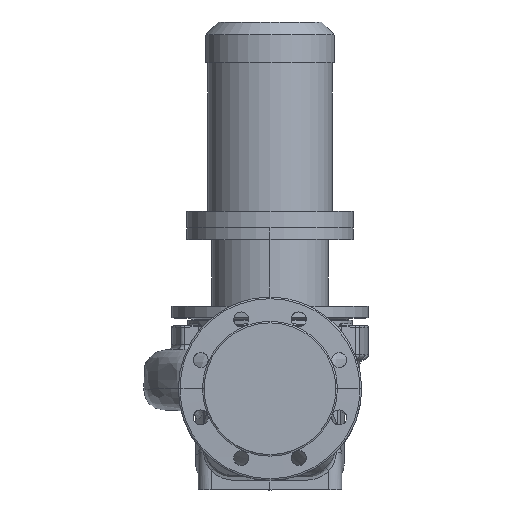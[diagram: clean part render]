
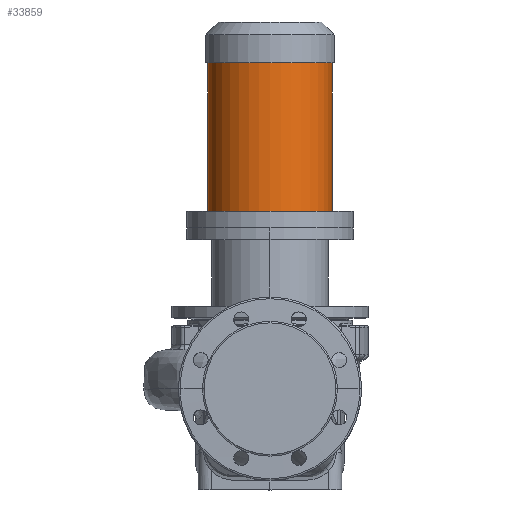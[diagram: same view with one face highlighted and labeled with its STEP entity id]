
A CAD part, top view. The second image highlights one B-rep face of the part: STEP entity #33859.
In plain terms, the highlighted cylindrical face has radius 74.5 mm (diameter 149 mm), a partial arc.
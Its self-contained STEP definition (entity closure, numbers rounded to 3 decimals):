
#2014 = FACE_OUTER_BOUND ( 'NONE', #4001, .T. ) ;
#4001 = EDGE_LOOP ( 'NONE', ( #45559, #39321, #36746, #52299 ) ) ;
#4704 = EDGE_CURVE ( 'NONE', #48616, #51716, #41108, .T. ) ;
#5822 = EDGE_CURVE ( 'NONE', #48616, #24642, #12489, .T. ) ;
#9980 = DIRECTION ( 'NONE',  ( -1., 0., 0. ) ) ;
#10709 = VECTOR ( 'NONE', #13674, 1000. ) ;
#11506 = AXIS2_PLACEMENT_3D ( 'NONE', #17473, #47699, #30773 ) ;
#12489 = CIRCLE ( 'NONE', #56275, 74.5 ) ;
#13229 = DIRECTION ( 'NONE',  ( 0., -1., 0. ) ) ;
#13674 = DIRECTION ( 'NONE',  ( 0., -1., 0. ) ) ;
#17473 = CARTESIAN_POINT ( 'NONE',  ( 0., 213.3, 0. ) ) ;
#21626 = VECTOR ( 'NONE', #13229, 1000. ) ;
#22342 = LINE ( 'NONE', #30806, #21626 ) ;
#24642 = VERTEX_POINT ( 'NONE', #38475 ) ;
#26799 = CARTESIAN_POINT ( 'NONE',  ( -74.5, 213.3, 0. ) ) ;
#27689 = AXIS2_PLACEMENT_3D ( 'NONE', #36042, #36606, #9980 ) ;
#30265 = CARTESIAN_POINT ( 'NONE',  ( 74.5, 391.3, 0. ) ) ;
#30773 = DIRECTION ( 'NONE',  ( -1., 0., 0. ) ) ;
#30806 = CARTESIAN_POINT ( 'NONE',  ( -74.5, 193.3, 0. ) ) ;
#33859 = ADVANCED_FACE ( 'NONE', ( #2014 ), #43413, .T. ) ;
#36042 = CARTESIAN_POINT ( 'NONE',  ( 0., 193.3, 0. ) ) ;
#36606 = DIRECTION ( 'NONE',  ( 0., -1., 0. ) ) ;
#36746 = ORIENTED_EDGE ( 'NONE', *, *, #40092, .T. ) ;
#38475 = CARTESIAN_POINT ( 'NONE',  ( -74.5, 391.3, 0. ) ) ;
#39321 = ORIENTED_EDGE ( 'NONE', *, *, #5822, .T. ) ;
#40092 = EDGE_CURVE ( 'NONE', #24642, #44269, #22342, .T. ) ;
#41108 = LINE ( 'NONE', #43938, #10709 ) ;
#41827 = CARTESIAN_POINT ( 'NONE',  ( 0., 391.3, 0. ) ) ;
#42018 = DIRECTION ( 'NONE',  ( -1., 0., 0. ) ) ;
#43413 = CYLINDRICAL_SURFACE ( 'NONE', #27689, 74.5 ) ;
#43938 = CARTESIAN_POINT ( 'NONE',  ( 74.5, 193.3, 0. ) ) ;
#44269 = VERTEX_POINT ( 'NONE', #26799 ) ;
#44397 = CARTESIAN_POINT ( 'NONE',  ( 74.5, 213.3, 0. ) ) ;
#45559 = ORIENTED_EDGE ( 'NONE', *, *, #4704, .F. ) ;
#47699 = DIRECTION ( 'NONE',  ( 0., -1., 0. ) ) ;
#48616 = VERTEX_POINT ( 'NONE', #30265 ) ;
#49589 = CIRCLE ( 'NONE', #11506, 74.5 ) ;
#50294 = DIRECTION ( 'NONE',  ( 0., -1., 0. ) ) ;
#50918 = EDGE_CURVE ( 'NONE', #51716, #44269, #49589, .T. ) ;
#51716 = VERTEX_POINT ( 'NONE', #44397 ) ;
#52299 = ORIENTED_EDGE ( 'NONE', *, *, #50918, .F. ) ;
#56275 = AXIS2_PLACEMENT_3D ( 'NONE', #41827, #50294, #42018 ) ;
